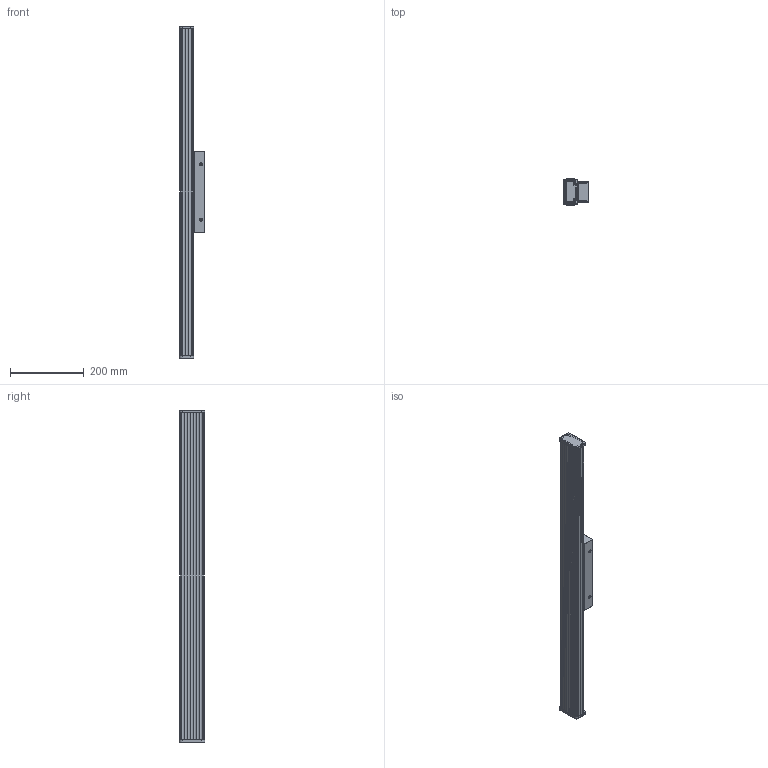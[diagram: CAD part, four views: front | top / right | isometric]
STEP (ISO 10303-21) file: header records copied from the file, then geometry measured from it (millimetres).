
FILE_DESCRIPTION (( 'STEP AP214' ), '1' );
FILE_NAME ('DUNE-A3992170.STEP', '2026-01-13T10:48:24', ( '' ), ( '' ), 'SwSTEP 2.0', 'SolidWorks 2025', '' );
FILE_SCHEMA (( 'AUTOMOTIVE_DESIGN' ));
Length unit declared in the file: millimetre
Products named in the file (7): W5516________ 191023_1.STEP; W2208C____-1.STEP; W2208C______.STEP; W2208C____.STEP; A3992170 W2208C 3D drawing_RPC.STEP; W2208C____-0.STEP; DUNE-A3992170
Assembly tree (7 placements, depth 3):
  DUNE-A3992170
    A3992170 W2208C 3D drawing_RPC.STEP
      W5516________ 191023_1.STEP  x2
      W2208C____.STEP
      W2208C____-0.STEP
      W2208C____-1.STEP
      W2208C______.STEP
Bounding box: 69 x 69 x 899 mm (x, y, z)
Volume: 519564 mm3; surface area: 760699.5 mm2
Topology: 6 solids, 6 shells, 480 faces, 1315 edges, 870 vertices
Faces by surface type: cylinder 261, plane 199, cone 20
Entity records: 13862 total; most frequent: CARTESIAN_POINT 2539, DIRECTION 2447, ORIENTED_EDGE 2306, EDGE_CURVE 1153, AXIS2_PLACEMENT_3D 898, VERTEX_POINT 762, LINE 651, VECTOR 651
